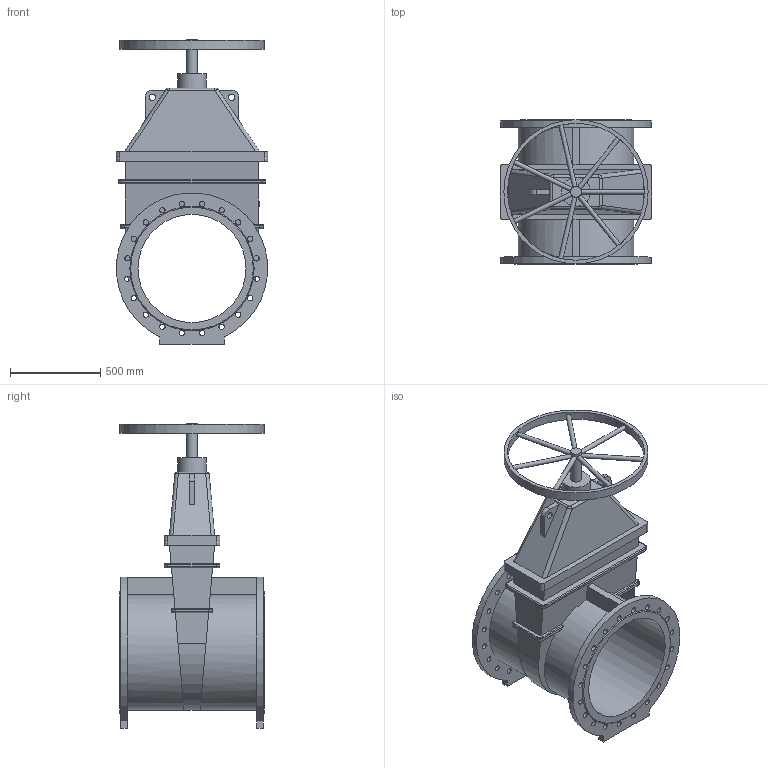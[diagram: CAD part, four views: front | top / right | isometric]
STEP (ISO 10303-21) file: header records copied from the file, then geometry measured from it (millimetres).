
FILE_DESCRIPTION(('STEP AP203'), '1');
FILE_NAME('Çàäâèæêà 47GV DN600 PN10_L800_W800 ñ ìàõîâèêîì', '', ('UNSPECIFIED'), ('UNSPECIFIED'), 'ASCON STEP Converter 1.6', 'ASCON Math Kernel', '');
FILE_SCHEMA(('CONFIG_CONTROL_DESIGN'));
Length unit declared in the file: millimetre
Bounding box: 840 x 800 x 1689 mm (x, y, z)
Volume: 174584660.4 mm3; surface area: 6698419.1 mm2
Topology: 1 solids, 1 shells, 219 faces, 557 edges, 356 vertices
Faces by surface type: cylinder 108, plane 85, bspline 16, torus 8, cone 2
Full cylindrical faces by diameter (mm): 25 x7, 30 x40, 36 x2, 60 x1, 160 x1, 600 x1, 760 x1, 800 x1
Entity records: 11391 total; most frequent: CARTESIAN_POINT 4375, DIRECTION 1042, ORIENTED_EDGE 1000, EDGE_CURVE 500, AXIS2_PLACEMENT_3D 402, EDGE_LOOP 392, VERTEX_POINT 356, FACE_BOUND 281
